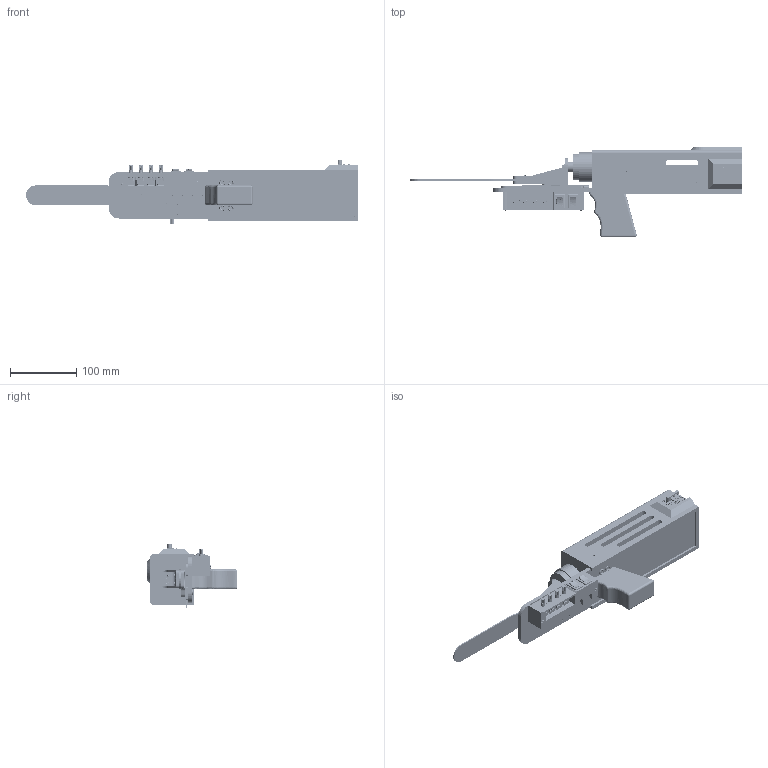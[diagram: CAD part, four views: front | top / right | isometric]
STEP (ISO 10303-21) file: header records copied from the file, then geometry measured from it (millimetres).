
FILE_DESCRIPTION(/* description */ ('STEP AP242 Edition 2','CAx-IF Rec.Pracs.---Representation and Presentation of Product Manufacturing Information (PMI)---4.0---2014-10-13','CAx-IF Rec.Pracs.---3D Tessellated Geometry---0.4---2014-09-14','2;1','CAx-IF Rec.Pracs.---User Defined Attributes---1.5---2016-08-15'),/* implementation_level */ '2;1');
FILE_NAME(/* name */ '694827ac77668399db4c0a61',/* time_stamp */ '2025-12-21T17:00:49Z',/* author */ (''),/* organization */ (''),/* preprocessor_version */ 'ST-DEVELOPER v20',/* originating_system */ 'ONSHAPE BY PTC INC, 1.208',/* authorisation */ ' ');
FILE_SCHEMA (('AP242_MANAGED_MODEL_BASED_3D_ENGINEERING_MIM_LF { 1 0 10303 442 3 1 4 }'));
Products named in the file (127): M2 heat set insert; M6 x 16 mm socket head screw; M3 heat set insert; M2 x 8 mm socket head screw; M2 x 8  mm socket head screw; M2 x 8 mm flathead screw; M3 x 10 mm socket head screw; M3 x 12 mm socket head screw; M2 x 14 mm socket head screw; M2 lockwasher; M3 hex nut; M3 lockwasher; M3 x 25 mm socket head screw; 10/32 x 5/8" UNF; M6 heat set insert; Posic_11XX_HolderA_pins; Posic_11XX_HolderA_pins_1; Posic_11XX_Encoder_fill; M3 x 35 mm socket head screw; 10/32 lockwasher; Posic_11XX_Encoder_thick; Posic_11XX_Encoder_thin; Pololu H2 motor driver; Bearing block; Posic_11XX_Cable; Dowel pin 3 x 12 mm; PTV09A-4025U-B103; Rocker switch (power); Rocker switch (direction); M2 washer; Dowel pin 3 x 16 mm; 10/32 washer; Dowel pin 1/8" x 1/2"; Dowel pin 2 x 10 mm; Posic_11XX_HolderA; M3 washer; Breadboard - pins; Handle; Rail; Moving coil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
Bounding box: 499.45 x 136.37 x 95.47 mm (x, y, z)
Volume: 797322.8 mm3; surface area: 368439.5 mm2
Topology: 115 solids, 127 shells, 26068 faces, 63177 edges, 38414 vertices
Faces by surface type: plane 13424, bspline 6356, cylinder 3846, cone 1142, torus 865, sphere 435
Full cylindrical faces by diameter (mm): 0.1 x10, 0.2 x4, 0.25 x2, 0.4 x5, 0.508 x1, 0.51 x1, 1 x8, 1.016 x19, 1.279 x24, 1.35 x4, 1.5 x1, 1.567 x8, 1.9 x4, 2 x2, 2.079 x8, 2.1 x4, 2.184 x6, 2.2 x8, 2.4 x15, 2.5 x2, 2.53 x22, 2.85 x2, 2.9 x8, 3 x331, 3.108 x6, 3.175 x6, 3.2 x26, 3.323 x11, 3.58 x11, 3.8 x12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
Entity records: 967596 total; most frequent: CARTESIAN_POINT 390072, ORIENTED_EDGE 121670, DIRECTION 93046, EDGE_CURVE 60835, VERTEX_POINT 37606, AXIS2_PLACEMENT_3D 31405, LINE 30236, VECTOR 30236
